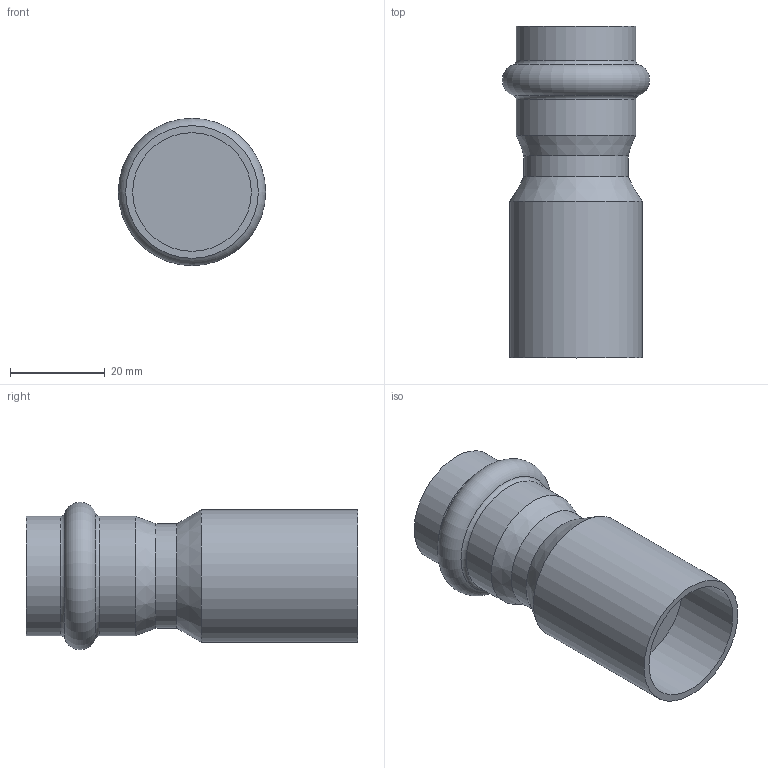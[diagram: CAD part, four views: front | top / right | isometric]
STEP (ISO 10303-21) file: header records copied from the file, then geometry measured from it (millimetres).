
FILE_DESCRIPTION(('STEP AP203'), '1');
FILE_NAME('VTi.905.I.002822', '', ('UNSPECIFIED'), ('UNSPECIFIED'), 'C3D Converter', 'C3D Toolkit', '');
FILE_SCHEMA(('CONFIG_CONTROL_DESIGN'));
Length unit declared in the file: millimetre
Bounding box: 31.1 x 70 x 31.1 mm (x, y, z)
Volume: 29088.3 mm3; surface area: 8966 mm2
Topology: 1 solids, 1 shells, 15 faces, 26 edges, 15 vertices
Faces by surface type: cylinder 6, plane 4, torus 3, cone 2
Full cylindrical faces by diameter (mm): 22 x1, 22.3 x1, 25.04 x1, 25.2 x2, 28 x1
Entity records: 344 total; most frequent: DIRECTION 62, CARTESIAN_POINT 46, AXIS2_PLACEMENT_3D 31, ORIENTED_EDGE 30, EDGE_LOOP 28, FACE_OUTER_BOUND 20, ADVANCED_FACE 15, EDGE_CURVE 15
